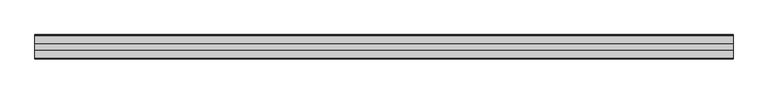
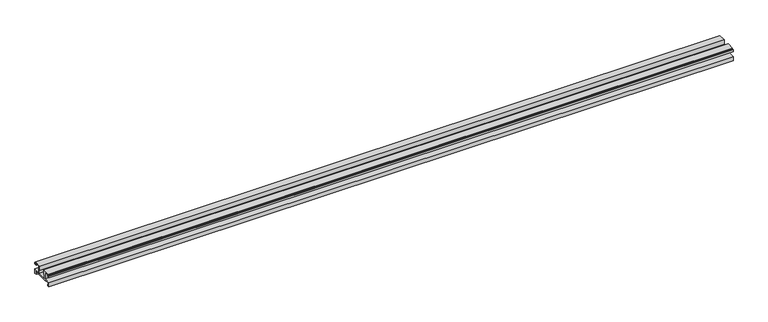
"""IFC4 building model written with IfcOpenShell, lengths in millimetres: proxy geometry, Weiku - Montante - Acoplamento vidro : Weiku - Montante - Acoplamento vidro."""

from ifc_helpers import new_model, si_unit, frame, origin, place, context, project, spatial, polyline, outline, extrude, source, transform, mapped, element, save


def generic_models_0d4b7f6d(model_context):
    return source(origin(), model_context, "Body", "SweptSolid", [
        extrude(outline(polyline([(35.405, 5.1494), (12.495, 5.1494), (12.495, 6.8004), (2.159, 6.8004), (2.159, 2.6094), (4.0216, 2.6094), (4.0216, 0.0), (-0.0014508, 0.0), (-0.0014508, 8.79), (12.954, 8.79), (12.954, 23.3104), (4.3603, 23.3104), (4.3603, 19.204), (0.0, 19.204), (0.0, 22.8024), (0.9736, 22.8024), (0.9736, 20.3894), (3.175, 20.3894), (3.175, 23.9454), (2.3735496, 23.9454), (2.3735496, 25.3), (17.4836, 25.3), (17.4836, 16.283), (15.4516, 16.283), (15.4516, 8.8), (32.4484, 8.8), (32.4484, 16.283), (30.4164, 16.283), (30.4164, 25.3), (45.5264504, 25.3), (45.5264504, 23.9454), (44.725, 23.9454), (44.725, 20.3894), (46.9264, 20.3894), (46.9264, 22.8024), (47.9, 22.8024), (47.9, 19.204), (43.5397, 19.204), (43.5397, 23.3104), (34.946, 23.3104), (34.946, 8.79), (47.9014508, 8.79), (47.9014508, 0.0), (43.8784, 0.0), (43.8784, 2.6094), (45.741, 2.6094), (45.741, 6.8004), (35.405, 6.8004), (35.405, 5.1494)])), frame((-680.5, 0.0, 0.0), z_axis=(1.0, 0.0, 0.0), x_axis=(0.0, 1.0, 0.0)), (0.0, 0.0, 1.0), 1361.0),
    ])


if __name__ == "__main__":
    model = new_model("IFC4")
    model_context = context("Model", 3, world=origin())
    ifc_project = project(units=[si_unit("LENGTHUNIT", "METRE", prefix="MILLI")], contexts=[model_context])
    site = spatial("IfcSite", under=ifc_project)
    building = spatial("IfcBuilding", under=site)
    placement = place(None, origin())
    generic_models_shape = generic_models_0d4b7f6d(model_context)
    element("IfcBuildingElementProxy", 1, Name="Weiku - Montante - Acoplamento vidro : Weiku - Montante - Acoplamento vidro", ObjectType="Weiku - Montante - Acoplamento vidro : Weiku - Montante - Acoplamento vidro", at=placement, inside=building, context=model_context, shape_type="MappedRepresentation", body=[
        mapped(generic_models_shape, transform((0.0, 0.0, 0.0), x_axis=(1.0, 0.0, 0.0), y_axis=(0.0, 1.0, 0.0), z_axis=(0.0, 0.0, 1.0))),
    ])
    save(model, "model.ifc")
